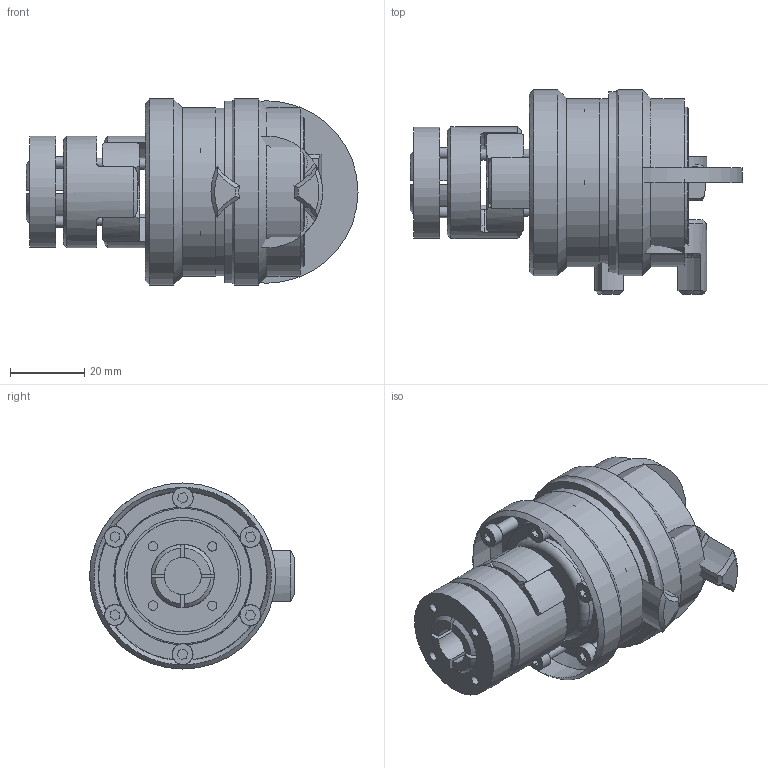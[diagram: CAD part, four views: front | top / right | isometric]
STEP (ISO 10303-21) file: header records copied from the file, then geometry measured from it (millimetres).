
FILE_DESCRIPTION( ( 'Unknown' ), '1' );
FILE_NAME( 'C:/Dokumente und Einstellungen/Sven/Desktop/hp kbk/E-AK/KBK EAK 14-73.stp', 'Unknown', ( 'Unknown' ), ( 'Unknown' ), 'XStep 1.0', 'Unknown', ' ' );
FILE_SCHEMA( ( 'automotive_design' ) );
Length unit declared in the file: millimetre
Products named in the file (19): Assem1; Assem2; Assem3; Zylinderschraube DIN 912_1; ball_bearing_-_61904_0_01_1; ball_bearing_-_61904_0_02_1; ball_bearing_-_61904_0_03_1; Stellring 10_1; Druckring 10_1; a_20_1; Flansch L-LL10_1; Elastomerflansch EK 10_1; Zahnkranz_14_Standard_1; KBE 3 - 14_Nabe; KBE3-14_Druckring_1; ISO EN DIN 4762_M3x12; L-K-10 Grundteil_1; Klemmnabe 7-10_1; schraube_iso_7380-m4x12-12_9_1
Bounding box: 89.2 x 55 x 50 mm (x, y, z)
Volume: 152694.8 mm3; surface area: 97048.6 mm2
Topology: 44 solids, 44 shells, 826 faces, 1858 edges, 1186 vertices
Faces by surface type: plane 344, cylinder 278, cone 155, torus 47, bspline 2
Full cylindrical faces by diameter (mm): 2 x4, 2.459 x16, 2.5 x12, 2.98 x5, 3 x26, 3.242 x2, 3.4 x12, 3.5 x8, 4 x2, 4.2 x2, 5 x5, 5.5 x8, 5.6 x12, 6 x10, 7.3 x2, 10 x6, 14 x2, 15 x2, 19 x2, 20 x7, 22 x2, 24 x4, 25 x2, 25.6 x6, 29 x2, 29.993 x2, 30 x6, 31.4 x6, 37 x7, 38 x2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
Entity records: 9579 total; most frequent: CARTESIAN_POINT 2121, DIRECTION 1560, ORIENTED_EDGE 1240, AXIS2_PLACEMENT_3D 700, EDGE_CURVE 620, EDGE_LOOP 522, VERTEX_POINT 457, FACE_OUTER_BOUND 422
